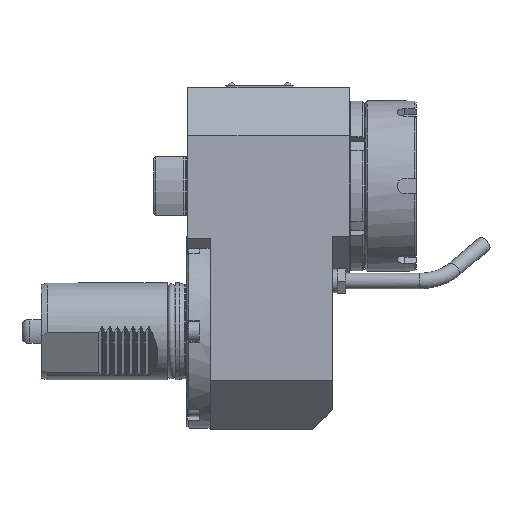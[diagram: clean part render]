
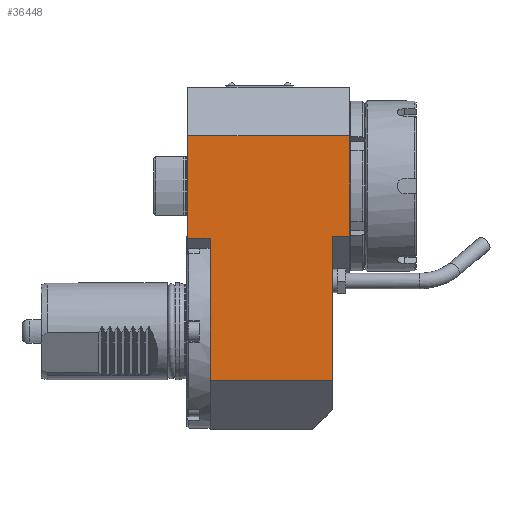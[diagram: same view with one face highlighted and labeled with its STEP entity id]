
A CAD part, front view. The second image highlights one B-rep face of the part: STEP entity #36448.
In plain terms, the highlighted planar face has unit normal (0, -1, 0).
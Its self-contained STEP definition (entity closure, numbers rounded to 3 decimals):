
#15252=ORIENTED_EDGE('',*,*,#20072,.T.);
#15253=ORIENTED_EDGE('',*,*,#20073,.T.);
#15254=ORIENTED_EDGE('',*,*,#20074,.F.);
#15255=ORIENTED_EDGE('',*,*,#20075,.F.);
#15256=ORIENTED_EDGE('',*,*,#20070,.F.);
#15257=ORIENTED_EDGE('',*,*,#20061,.T.);
#15258=ORIENTED_EDGE('',*,*,#20076,.T.);
#15259=ORIENTED_EDGE('',*,*,#20077,.T.);
#15260=ORIENTED_EDGE('',*,*,#20078,.F.);
#17774=VECTOR('',#22981,1.);
#17782=VECTOR('',#22997,1.);
#17784=VECTOR('',#23001,1.);
#17785=VECTOR('',#23002,1.);
#17786=VECTOR('',#23003,1.);
#17787=VECTOR('',#23004,1.);
#17788=VECTOR('',#23005,1.);
#17789=VECTOR('',#23006,1.);
#17790=VECTOR('',#23007,1.);
#18468=LINE('',#25971,#17774);
#18476=LINE('',#25989,#17782);
#18478=LINE('',#25994,#17784);
#18479=LINE('',#25996,#17785);
#18480=LINE('',#25998,#17786);
#18481=LINE('',#25999,#17787);
#18482=LINE('',#26001,#17788);
#18483=LINE('',#26003,#17789);
#18484=LINE('',#26004,#17790);
#19164=VERTEX_POINT('',#25968);
#19165=VERTEX_POINT('',#25970);
#19171=VERTEX_POINT('',#25988);
#19172=VERTEX_POINT('',#25992);
#19173=VERTEX_POINT('',#25993);
#19174=VERTEX_POINT('',#25995);
#19175=VERTEX_POINT('',#25997);
#19176=VERTEX_POINT('',#26000);
#19177=VERTEX_POINT('',#26002);
#20061=EDGE_CURVE('',#19165,#19164,#18468,.T.);
#20070=EDGE_CURVE('',#19165,#19171,#18476,.T.);
#20072=EDGE_CURVE('',#19172,#19173,#18478,.T.);
#20073=EDGE_CURVE('',#19173,#19174,#18479,.T.);
#20074=EDGE_CURVE('',#19175,#19174,#18480,.T.);
#20075=EDGE_CURVE('',#19171,#19175,#18481,.T.);
#20076=EDGE_CURVE('',#19164,#19176,#18482,.T.);
#20077=EDGE_CURVE('',#19176,#19177,#18483,.T.);
#20078=EDGE_CURVE('',#19172,#19177,#18484,.T.);
#21322=EDGE_LOOP('',(#15252,#15253,#15254,#15255,#15256,#15257,#15258,#15259,
#15260));
#22136=FACE_BOUND('',#21322,.T.);
#22981=DIRECTION('',(0.,0.,52.));
#22997=DIRECTION('',(-9.,0.,0.));
#22999=DIRECTION('',(0.,-1.,0.));
#23000=DIRECTION('',(-1.,0.,0.));
#23001=DIRECTION('',(0.,0.,-48.));
#23002=DIRECTION('',(0.,0.,-25.5));
#23003=DIRECTION('',(-63.,0.,0.));
#23004=DIRECTION('',(0.,0.,-74.5));
#23005=DIRECTION('',(-83.5,0.,0.));
#23006=DIRECTION('',(0.,0.,-53.));
#23007=DIRECTION('',(-11.5,0.,0.));
#25968=CARTESIAN_POINT('',(84.,-50.,101.));
#25970=CARTESIAN_POINT('',(84.,-50.,49.));
#25971=CARTESIAN_POINT('',(84.,-50.,49.));
#25988=CARTESIAN_POINT('',(75.,-50.,49.));
#25989=CARTESIAN_POINT('',(84.,-50.,49.));
#25991=CARTESIAN_POINT('',(84.,-50.,49.));
#25992=CARTESIAN_POINT('',(12.,-50.,48.));
#25993=CARTESIAN_POINT('',(12.,-50.,0.));
#25994=CARTESIAN_POINT('',(12.,-50.,48.));
#25995=CARTESIAN_POINT('',(12.,-50.,-25.5));
#25996=CARTESIAN_POINT('',(12.,-50.,0.));
#25997=CARTESIAN_POINT('',(75.,-50.,-25.5));
#25998=CARTESIAN_POINT('',(75.,-50.,-25.5));
#25999=CARTESIAN_POINT('',(75.,-50.,49.));
#26000=CARTESIAN_POINT('',(0.5,-50.,101.));
#26001=CARTESIAN_POINT('',(84.,-50.,101.));
#26002=CARTESIAN_POINT('',(0.5,-50.,48.));
#26003=CARTESIAN_POINT('',(0.5,-50.,101.));
#26004=CARTESIAN_POINT('',(12.,-50.,48.));
#34948=AXIS2_PLACEMENT_3D('',#25991,#22999,#23000);
#36085=PLANE('',#34948);
#36448=ADVANCED_FACE('',(#22136),#36085,.T.);
